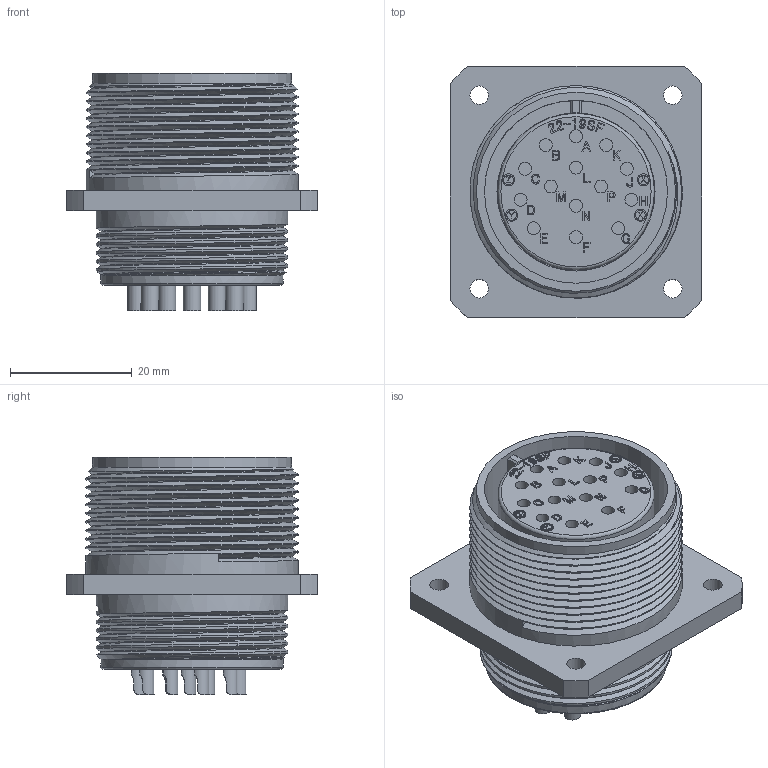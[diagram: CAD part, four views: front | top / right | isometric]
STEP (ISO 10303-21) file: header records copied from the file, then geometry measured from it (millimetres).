
FILE_DESCRIPTION (( 'STEP AP203' ), '1' );
FILE_NAME ('DMS3100A22-19S(D263).STEP', '2022-02-14T00:47:08', ( '' ), ( '' ), 'SwSTEP 2.0', 'SolidWorks 2018', '' );
FILE_SCHEMA (( 'CONFIG_CONTROL_DESIGN' ));
Length unit declared in the file: millimetre
Products named in the file (1): DMS3100A22-19S(D263)
Bounding box: 41.27 x 41.27 x 38.92 mm (x, y, z)
Volume: 26722.1 mm3; surface area: 15087.3 mm2
Topology: 1 solids, 1 shells, 1212 faces, 3221 edges, 2133 vertices
Faces by surface type: plane 668, bspline 322, cylinder 194, torus 26, cone 2
Full cylindrical faces by diameter (mm): 1.6 x4, 2 x4, 2.11 x14, 3.05 x4, 23.16 x1, 25.65 x1, 25.94 x1, 27.43 x1, 29.9 x1, 30.03 x1, 31.49 x5, 32.68 x1, 34.88 x10
Entity records: 49703 total; most frequent: CARTESIAN_POINT 22519, ORIENTED_EDGE 6230, DIRECTION 4328, EDGE_CURVE 3115, VERTEX_POINT 2081, VECTOR 1994, LINE 1994, EDGE_LOOP 1366
